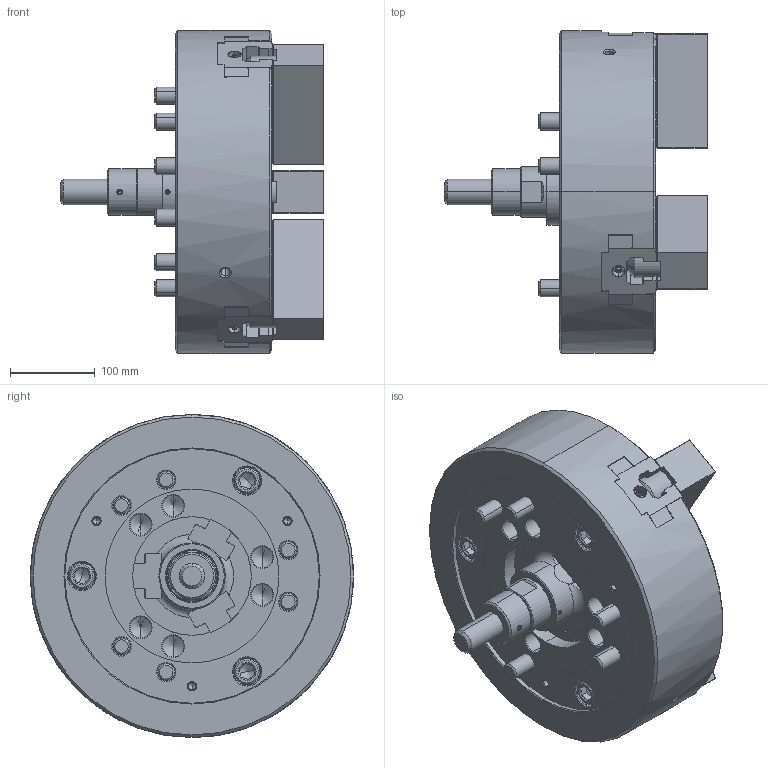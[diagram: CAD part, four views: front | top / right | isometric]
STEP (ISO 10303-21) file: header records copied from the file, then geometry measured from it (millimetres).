
FILE_DESCRIPTION (( 'STEP AP214' ), '1' );
FILE_NAME ('DT1_N-15_OUTSIDE_VIEW_HCL.STEP', '2026-03-19T02:20:01', ( '' ), ( '' ), 'SwSTEP 2.0', 'SolidWorks 2022', '' );
FILE_SCHEMA (( 'AUTOMOTIVE_DESIGN' ));
Length unit declared in the file: millimetre
Products named in the file (11): DT1_N-15_M6x12^DT1_N-15; DT1_N-15_DN^DT1_N-15; DT1_N-15_SOFTJAW^DT1_N-15; Copy of 61P321208^DT1_N-15; DT1_N-15_TNUT^DT1_N-15; DT1_N-15_BASE^DT1_N-15; DT1_N-15_COVER^DT1_N-15; DT1_N-15_M20x55^DT1_N-15; DT1_N-15_DRAWSCREW^DT1_N-15; DT1_N-15_OUTSIDE_VIEW_HCL; DT1_N-15_M20x115^DT1_N-15
Assembly tree (29 placements, depth 2):
  DT1_N-15_OUTSIDE_VIEW_HCL
    DT1_N-15_SOFTJAW^DT1_N-15  x3
    DT1_N-15_TNUT^DT1_N-15  x6
    DT1_N-15_COVER^DT1_N-15
    DT1_N-15_DRAWSCREW^DT1_N-15
    Copy of 61P321208^DT1_N-15
    DT1_N-15_DN^DT1_N-15
    DT1_N-15_BASE^DT1_N-15
    DT1_N-15_M6x12^DT1_N-15  x3
    DT1_N-15_M20x115^DT1_N-15  x6
    DT1_N-15_M20x55^DT1_N-15  x6
Bounding box: 310.5 x 381 x 381 mm (x, y, z)
Volume: 13411246.9 mm3; surface area: 958413 mm2
Topology: 29 solids, 30 shells, 5358 faces, 15277 edges, 10023 vertices
Faces by surface type: plane 3945, cylinder 825, cone 433, bspline 95, torus 54, sphere 6
Entity records: 130426 total; most frequent: CARTESIAN_POINT 33379, ORIENTED_EDGE 21854, DIRECTION 17671, EDGE_CURVE 10927, VECTOR 8373, LINE 8373, VERTEX_POINT 7189, AXIS2_PLACEMENT_3D 4649
